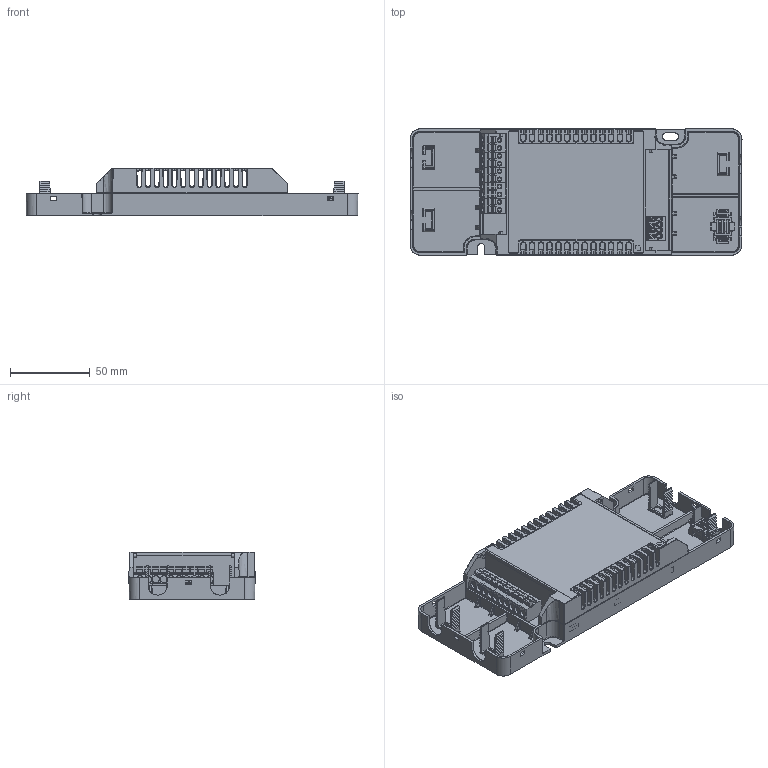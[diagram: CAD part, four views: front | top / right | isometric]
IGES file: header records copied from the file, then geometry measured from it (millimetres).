
Start section: SolidWorks IGES file using analytic representation for surfaces
Global section: file name: C:\Users\vuorinen_kari\Desktop\prj\P00010_LC_HYBRIDI\50w monsteri\LC51SE-CC-900-1400-LOOP-WOSR.IGS; native system: SolidWorks 2014; preprocessor: SolidWorks 2014; author: vuorinen_kari; date: 180620.144626; units: millimetre
Bounding box: 207.8 x 79 x 30 mm (x, y, z)
Surface area: 110531.7 mm2 (no closed solid volume)
Topology: 0 solids, 0 shells, 3058 faces, 23592 edges, 23471 vertices
Faces by surface type: bspline 1899, revolution 1159
